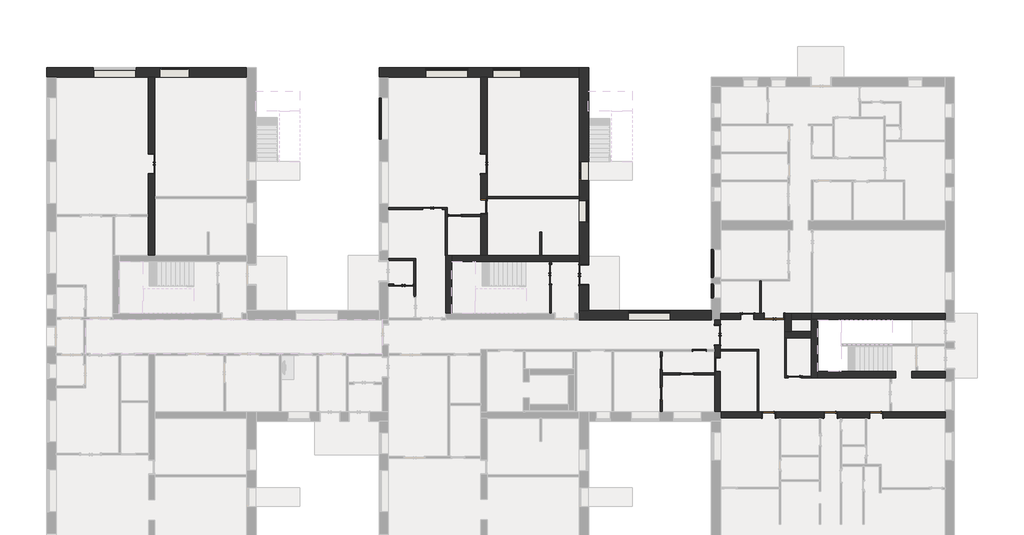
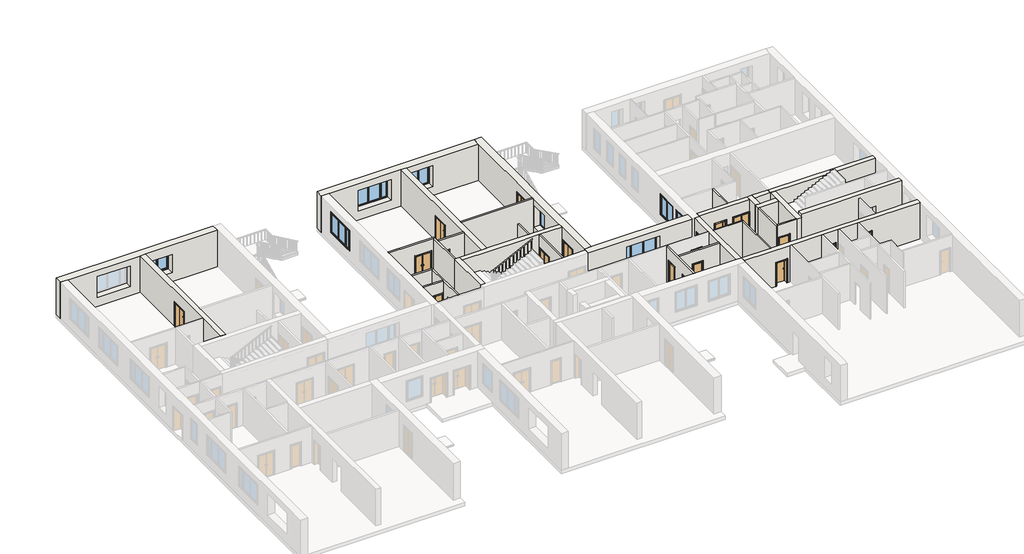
# One storey, part 4 of 10: 33 walls, 21 doors, 8 windows.
"""IFC4 building model written with IfcOpenShell, lengths in millimetres."""

from ifc_helpers import new_model, si_unit, frame, origin, origin_with_axes, place, context, project, spatial, polyline, outline, extrude, faceted_brep, transform, mapped, element, save
from components import door_ad1fb5ee, door_b74962f7, door_6cda5d05, door_6ba15531, door_47037448, door_987aae31, door_65913abd, door_dd7598a4, door_77306523, door_972d3b8f, door_8e506e8c, door_438def48, door_428ffb38, window_17d24cb2, window_91fb4078, window_825c4489, window_d8f3b313, window_e44eff39, window_74172d11, window_310a172f

model = new_model("IFC4")

# Units and contexts
model_context = context("Model", 3, world=origin())
ifc_project = project(units=[si_unit("LENGTHUNIT", "METRE", prefix="MILLI")], contexts=[model_context])

# Site, building, storey
site = spatial("IfcSite", under=ifc_project)
building = spatial("IfcBuilding", under=site)
storey = spatial("IfcBuildingStorey", under=building, Name="1 этаж", Elevation=0.0)

# Doors
placement = place(None, origin())
door_shape = door_ad1fb5ee(model_context)
element("IfcDoor", 1, ObjectType="Внутренняя дверь 1-Навесная - 30970-2002 : ДПВ Г Б Л 2100-870 ГОСТ 30970-2002", at=placement, inside=storey, context=model_context, shape_type="MappedRepresentation", body=[
    mapped(door_shape, transform((-11869.8240021, 12993.1370105, 0.0), x_axis=(1.0, 0.0, 0.0), y_axis=(0.0, 1.0, 0.0), z_axis=(0.0, 0.0, 1.0))),
])
door_2_shape = door_b74962f7(model_context)
element("IfcDoor", 2, ObjectType="Внутренняя дверь 1-Навесная - 30970-2002 : ДПВ Г Б Пр 2100-870 ГОСТ 30970-2002", at=placement, inside=storey, context=model_context, shape_type="MappedRepresentation", body=[
    mapped(door_2_shape, transform((-9991.3240021, 13594.6370105, 0.0), x_axis=(0.0, -1.0, 0.0), y_axis=(1.0, 0.0, 0.0), z_axis=(0.0, 0.0, 1.0))),
])
door_3_shape = door_6cda5d05(model_context)
element("IfcDoor", 3, ObjectType="Наружная дверь 2-Навесная - Один проем наружу с порогом - 31173-2003 : ДСН ДКН М2 2100-1300 ГОСТ 31173-2003", at=placement, inside=storey, context=model_context, shape_type="MappedRepresentation", body=[
    mapped(door_3_shape, transform((-13329.8240021, 13472.1370105, 0.0), x_axis=(-1.0, 0.0, 0.0), y_axis=(0.0, -1.0, 0.0), z_axis=(0.0, 0.0, 1.0))),
])
element("IfcDoor", 4, ObjectType="Наружная дверь 2-Навесная - Один проем наружу с порогом - 31173-2003 : ДСН ДКН М2 2100-1300 ГОСТ 31173-2003", at=placement, inside=storey, context=model_context, shape_type="MappedRepresentation", body=[
    mapped(door_3_shape, transform((-15224.8240021, 8487.1370105, 0.0), x_axis=(1.0, 0.0, 0.0), y_axis=(0.0, 1.0, 0.0), z_axis=(0.0, 0.0, 1.0))),
])
door_4_shape = door_6ba15531(model_context)
element("IfcDoor", 5, ObjectType="Наружная дверь 2-Навесная - Один проем наружу с порогом - 31173-2003 : ДСН ДКН М2 2100-1300 ГОСТ 31173-2003", at=placement, inside=storey, context=model_context, shape_type="MappedRepresentation", body=[
    mapped(door_4_shape, transform((8927.7323649, 6444.6370105, 0.0), x_axis=(1.0, 0.0, 0.0), y_axis=(0.0, 1.0, 0.0), z_axis=(0.0, 0.0, 1.0))),
])
element("IfcDoor", 6, ObjectType="Наружная дверь 2-Навесная - Один проем наружу с порогом - 31173-2003 : ДСН ДКН М2 2100-1300 ГОСТ 31173-2003", at=placement, inside=storey, context=model_context, shape_type="MappedRepresentation", body=[
    mapped(door_3_shape, transform((-5639.8240021, 9204.6370105, 0.0), x_axis=(0.0, -1.0, 0.0), y_axis=(1.0, 0.0, 0.0), z_axis=(0.0, 0.0, 1.0))),
])
door_5_shape = door_47037448(model_context)
element("IfcDoor", 7, ObjectType="Наружная дверь 2-Навесная - Один проем наружу с порогом - 31173-2003 : ДСН ДКН М2 2100-1300 ГОСТ 31173-2003", at=placement, inside=storey, context=model_context, shape_type="MappedRepresentation", body=[
    mapped(door_5_shape, transform((-3467.3240021, 9144.6370105, 0.0), x_axis=(0.0, -1.0, 0.0), y_axis=(1.0, 0.0, 0.0), z_axis=(0.0, 0.0, 1.0))),
])
element("IfcDoor", 8, ObjectType="Внутренняя дверь 1-Навесная - 30970-2002 : ДПВ Г Б Пр 2100-870 ГОСТ 30970-2002", at=placement, inside=storey, context=model_context, shape_type="MappedRepresentation", body=[
    mapped(door_shape, transform((4057.6759979, 4223.1370105, 0.0), x_axis=(1.0, 0.0, 0.0), y_axis=(0.0, 1.0, 0.0), z_axis=(0.0, 0.0, 1.0))),
])
element("IfcDoor", 9, ObjectType="Внутренняя дверь 1-Навесная - 30970-2002 : ДПВ Г Б Пр 2100-870 ГОСТ 30970-2002", at=placement, inside=storey, context=model_context, shape_type="MappedRepresentation", body=[
    mapped(door_shape, transform((3242.6759979, 2670.6370105, 0.0), x_axis=(1.0, 0.0, 0.0), y_axis=(0.0, 1.0, 0.0), z_axis=(0.0, 0.0, 1.0))),
])
element("IfcDoor", 10, ObjectType="Внутренняя дверь 1-Навесная - 30970-2002 : ДПВ Г Б Л 2100-870 ГОСТ 30970-2002", at=placement, inside=storey, context=model_context, shape_type="MappedRepresentation", body=[
    mapped(door_shape, transform((1591.6759979, 3399.6370105, 0.0), x_axis=(0.0, 1.0, 0.0), y_axis=(-1.0, 0.0, 0.0), z_axis=(0.0, 0.0, 1.0))),
])
element("IfcDoor", 11, ObjectType="Внутренняя дверь 1-Навесная - 30970-2002 : ДПВ Г Б Л 2100-870 ГОСТ 30970-2002", at=placement, inside=storey, context=model_context, shape_type="MappedRepresentation", body=[
    mapped(door_shape, transform((1591.6759979, 1419.6370105, 0.0), x_axis=(0.0, 1.0, 0.0), y_axis=(-1.0, 0.0, 0.0), z_axis=(0.0, 0.0, 1.0))),
])
door_6_shape = door_987aae31(model_context)
element("IfcDoor", 12, ObjectType="Внутренняя дверь 1-Навесная - 30970-2002 : ДПВ Г Б Пр 2100-870 ГОСТ 30970-2002", at=placement, inside=storey, context=model_context, shape_type="MappedRepresentation", body=[
    mapped(door_6_shape, transform((5246.6759979, 3299.6370105, 0.0), x_axis=(0.0, 1.0, 0.0), y_axis=(-1.0, 0.0, 0.0), z_axis=(0.0, 0.0, 1.0))),
])
door_7_shape = door_65913abd(model_context)
element("IfcDoor", 13, ObjectType="Наружная дверь 2-Навесная - Один проем наружу с порогом - 31173-2003 : ДСН ДКН М2 2100-1300 ГОСТ 31173-2003", at=placement, inside=storey, context=model_context, shape_type="MappedRepresentation", body=[
    mapped(door_7_shape, transform((5237.6759979, 5232.1370105, 0.0), x_axis=(0.0, 1.0, 0.0), y_axis=(-1.0, 0.0, 0.0), z_axis=(0.0, 0.0, 1.0))),
])
door_8_shape = door_dd7598a4(model_context)
element("IfcDoor", 14, ObjectType="Наружная дверь 2-Навесная - Один проем наружу с порогом - 31173-2003 : ДСН ДКН М2 2100-1300 ГОСТ 31173-2003", at=placement, inside=storey, context=model_context, shape_type="MappedRepresentation", body=[
    mapped(door_8_shape, transform((-9982.3240021, 16387.1370105, 0.0), x_axis=(0.0, 1.0, 0.0), y_axis=(-1.0, 0.0, 0.0), z_axis=(0.0, 0.0, 1.0))),
])
element("IfcDoor", 15, ObjectType="Наружная дверь 2-Навесная - Один проем наружу с порогом - 31173-2003 : ДСН ДКН М2 2100-1300 ГОСТ 31173-2003", at=placement, inside=storey, context=model_context, shape_type="MappedRepresentation", body=[
    mapped(door_8_shape, transform((-31622.3240021, 16387.1370105, 0.0), x_axis=(0.0, 1.0, 0.0), y_axis=(-1.0, 0.0, 0.0), z_axis=(0.0, 0.0, 1.0))),
])
door_9_shape = door_77306523(model_context)
element("IfcDoor", 16, ObjectType="Внутренняя дверь 1-Навесная - 6629-88 : ДГ 21-9  ГОСТ 6629-88", at=placement, inside=storey, context=model_context, shape_type="MappedRepresentation", body=[
    mapped(door_9_shape, transform((12602.6759979, 14.6370105, 0.0), x_axis=(-1.0, 0.0, 0.0), y_axis=(0.0, -1.0, 0.0), z_axis=(0.0, 0.0, 1.0))),
])
door_10_shape = door_972d3b8f(model_context)
element("IfcDoor", 17, ObjectType="Внутренняя дверь 1-Навесная - 6629-88 : ДГ 21-9Л  ГОСТ 6629-88", at=placement, inside=storey, context=model_context, shape_type="MappedRepresentation", body=[
    mapped(door_10_shape, transform((15567.6759979, 14.6370105, 0.0), x_axis=(1.0, 0.0, 0.0), y_axis=(0.0, 1.0, 0.0), z_axis=(0.0, 0.0, 1.0))),
])
element("IfcDoor", 18, ObjectType="Внутренняя дверь 1-Навесная - 6629-88 : ДГ 21-9Л  ГОСТ 6629-88", at=placement, inside=storey, context=model_context, shape_type="MappedRepresentation", body=[
    mapped(door_10_shape, transform((8572.6759979, 14.6370105, 0.0), x_axis=(1.0, 0.0, 0.0), y_axis=(0.0, 1.0, 0.0), z_axis=(0.0, 0.0, 1.0))),
])
door_11_shape = door_8e506e8c(model_context)
element("IfcDoor", 19, ObjectType="Внутренняя дверь 1-Навесная - 6629-88 : ДГ 21-9Л  ГОСТ 6629-88", at=placement, inside=storey, context=model_context, shape_type="MappedRepresentation", body=[
    mapped(door_11_shape, transform((10277.6759979, 2494.6370105, 0.0), x_axis=(1.0, 0.0, 0.0), y_axis=(0.0, 1.0, 0.0), z_axis=(0.0, 0.0, 1.0))),
])
door_12_shape = door_438def48(model_context)
element("IfcDoor", 20, ObjectType="Внутренняя дверь 1-Навесная - 6629-88 : ДГ 21-9Л  ГОСТ 6629-88", at=placement, inside=storey, context=model_context, shape_type="MappedRepresentation", body=[
    mapped(door_12_shape, transform((7187.7887319, 6444.6370105, 0.0), x_axis=(-1.0, 0.0, 0.0), y_axis=(0.0, -1.0, 0.0), z_axis=(0.0, 0.0, 1.0))),
])
door_13_shape = door_428ffb38(model_context)
element("IfcDoor", 21, ObjectType="Балконная дверь 2-Распашная - Сдвоенные переплеты с остеклением - 11214-2003 : БД СП Д1 2175-1174-94 ГОСТ 11214-2003", at=placement, inside=storey, context=model_context, shape_type="MappedRepresentation", body=[
    mapped(door_13_shape, transform((-3467.3240021, 15927.1370105, 0.0), x_axis=(0.0, 1.0, 0.0), y_axis=(-1.0, 0.0, 0.0), z_axis=(0.0, 0.0, 1.0))),
])

# Walls
element("IfcWall", 22, ObjectType="ADSK_Внутренняя_Кирпич_610", at=placement, inside=storey, context=model_context, shape_type="Brep", body=[
    faceted_brep([(-25412.3240021, 22644.6370105, 0.0), (-38442.3240021, 22644.6370105, 0.0), (-38442.3240021, 22644.6370105, 3200.0), (-25412.3240021, 22644.6370105, 3200.0), (-31077.3240021, 22644.6370105, 800.0), (-29177.3240021, 22644.6370105, 800.0), (-29177.3240021, 22644.6370105, 2400.0), (-31077.3240021, 22644.6370105, 2400.0), (-32657.3240021, 22644.6370105, 800.0), (-32657.3240021, 22644.6370105, 2620.0), (-35387.3240021, 22644.6370105, 2620.0), (-35387.3240021, 22644.6370105, 800.0), (-25412.3240021, 22034.6370105, 0.0), (-25412.3240021, 22034.6370105, 3200.0), (-31412.3240021, 22034.6370105, 3200.0), (-31832.3240021, 22034.6370105, 3200.0), (-37832.3240021, 22034.6370105, 3200.0), (-38442.3240021, 22034.6370105, 3200.0), (-38442.3240021, 22034.6370105, 0.0), (-37832.3240021, 22034.6370105, 0.0), (-31832.3240021, 22034.6370105, 0.0), (-31412.3240021, 22034.6370105, 0.0), (-31077.3240021, 22034.6370105, 800.0), (-31077.3240021, 22034.6370105, 2400.0), (-29177.3240021, 22034.6370105, 2400.0), (-29177.3240021, 22034.6370105, 800.0), (-32657.3240021, 22034.6370105, 800.0), (-35387.3240021, 22034.6370105, 800.0), (-35387.3240021, 22034.6370105, 2620.0), (-32657.3240021, 22034.6370105, 2620.0)], [[[0, 1, 2, 3], [4, 5, 6, 7], [8, 9, 10, 11]], [[12, 13, 14, 15, 16, 17, 18, 19, 20, 21], [22, 23, 24, 25], [26, 27, 28, 29]], [[1, 0, 12, 21, 20, 19, 18]], [[0, 3, 13, 12]], [[23, 22, 4, 7]], [[24, 23, 7, 6]], [[25, 24, 6, 5]], [[22, 25, 5, 4]], [[2, 1, 18, 17]], [[9, 8, 26, 29]], [[10, 9, 29, 28]], [[11, 10, 28, 27]], [[8, 11, 27, 26]], [[3, 2, 17, 16, 15, 14, 13]]]),
])
element("IfcWall", 23, ObjectType="ADSK_Внутренняя_Кирпич_610", at=placement, inside=storey, context=model_context, shape_type="Brep", body=[
    faceted_brep([(4837.6759979, 6834.6370105, 0.0), (-3162.3240021, 6834.6370105, 0.0), (-3772.3240021, 6834.6370105, 0.0), (-3772.3240021, 6834.6370105, 3200.0), (-3162.3240021, 6834.6370105, 3200.0), (4837.6759979, 6834.6370105, 3200.0), (-572.3240021, 6834.6370105, 800.0), (2157.6759979, 6834.6370105, 800.0), (2157.6759979, 6834.6370105, 2620.0), (-572.3240021, 6834.6370105, 2620.0), (4837.6759979, 6224.6370105, 0.0), (4837.6759979, 6224.6370105, 3200.0), (-3772.3240021, 6224.6370105, 3200.0), (-3772.3240021, 6224.6370105, 0.0), (-572.3240021, 6224.6370105, 800.0), (-572.3240021, 6224.6370105, 2620.0), (2157.6759979, 6224.6370105, 2620.0), (2157.6759979, 6224.6370105, 800.0), (-3772.3240021, 6244.6370105, 0.0), (-3772.3240021, 6644.6370105, 0.0), (-3772.3240021, 6244.6370105, 3200.0), (-3772.3240021, 6644.6370105, 3200.0)], [[[0, 1, 2, 3, 4, 5], [6, 7, 8, 9]], [[10, 11, 12, 13], [14, 15, 16, 17]], [[2, 1, 0, 10, 13, 18, 19]], [[0, 5, 11, 10]], [[3, 2, 19, 18, 13, 12, 20, 21]], [[15, 14, 6, 9]], [[16, 15, 9, 8]], [[17, 16, 8, 7]], [[14, 17, 7, 6]], [[5, 4, 3, 21, 20, 12, 11]]]),
])
element("IfcWall", 24, ObjectType="ADSK_Внутренняя_Кирпич_610", at=placement, inside=storey, context=model_context, shape_type="Brep", body=[
    faceted_brep([(-3162.3240021, 6834.6370105, 3200.0), (-3162.3240021, 6834.6370105, 0.0), (-3162.3240021, 8474.6370105, 0.0), (-3162.3240021, 8474.6370105, 2120.0), (-3162.3240021, 9814.6370105, 2120.0), (-3162.3240021, 9814.6370105, 0.0), (-3162.3240021, 22644.6370105, 0.0), (-3162.3240021, 22644.6370105, 3200.0), (-3162.3240021, 16519.4362632, 3200.0), (-3162.3240021, 15097.1370105, 3200.0), (-3162.3240021, 13977.1370105, 800.0), (-3162.3240021, 12597.1370105, 800.0), (-3162.3240021, 12597.1370105, 2620.0), (-3162.3240021, 13977.1370105, 2620.0), (-3162.3240021, 15310.1370105, 100.0), (-3162.3240021, 15310.1370105, 2335.0), (-3162.3240021, 16544.1370105, 2335.0), (-3162.3240021, 16544.1370105, 100.0), (-3772.3240021, 6834.6370105, 3200.0), (-3772.3240021, 10004.6370105, 3200.0), (-3772.3240021, 10404.6370105, 3200.0), (-3772.3240021, 14114.6370105, 3200.0), (-3772.3240021, 14259.6370105, 3200.0), (-3772.3240021, 22034.6370105, 3200.0), (-3772.3240021, 22644.6370105, 3200.0), (-3772.3240021, 22644.6370105, 0.0), (-3772.3240021, 22034.6370105, 0.0), (-3772.3240021, 14259.6370105, 0.0), (-3772.3240021, 14114.6370105, 0.0), (-3772.3240021, 10404.6370105, 0.0), (-3772.3240021, 10004.6370105, 0.0), (-3772.3240021, 9814.6370105, 0.0), (-3772.3240021, 9814.6370105, 2120.0), (-3772.3240021, 8474.6370105, 2120.0), (-3772.3240021, 8474.6370105, 0.0), (-3772.3240021, 6834.6370105, 0.0), (-3772.3240021, 13977.1370105, 800.0), (-3772.3240021, 13977.1370105, 2620.0), (-3772.3240021, 12597.1370105, 2620.0), (-3772.3240021, 12597.1370105, 800.0), (-3772.3240021, 15310.1370105, 100.0), (-3772.3240021, 16544.1370105, 100.0), (-3772.3240021, 16544.1370105, 2335.0), (-3772.3240021, 15310.1370105, 2335.0)], [[[0, 1, 2, 3, 4, 5, 6, 7, 8, 9], [10, 11, 12, 13], [14, 15, 16, 17]], [[18, 19, 20, 21, 22, 23, 24, 25, 26, 27, 28, 29, 30, 31, 32, 33, 34, 35], [36, 37, 38, 39], [40, 41, 42, 43]], [[1, 35, 34, 2]], [[25, 6, 5, 31, 30, 29, 28, 27, 26]], [[1, 0, 18, 35]], [[7, 6, 25, 24]], [[33, 3, 2, 34]], [[3, 33, 32, 4]], [[4, 32, 31, 5]], [[37, 36, 10, 13]], [[38, 37, 13, 12]], [[39, 38, 12, 11]], [[36, 39, 11, 10]], [[15, 14, 40, 43]], [[16, 15, 43, 42]], [[17, 16, 42, 41]], [[14, 17, 41, 40]], [[24, 23, 22, 21, 20, 19, 18, 0, 9, 8, 7]]]),
])
element("IfcWall", 25, ObjectType="ADSK_Внутренняя_Кирпич_610", at=placement, inside=storey, context=model_context, shape_type="Brep", body=[
    faceted_brep([(-3772.3240021, 22644.6370105, 0.0), (-16802.3240021, 22644.6370105, 0.0), (-16802.3240021, 22644.6370105, 3200.0), (-3772.3240021, 22644.6370105, 3200.0), (-11017.3240021, 22644.6370105, 800.0), (-11017.3240021, 22644.6370105, 2620.0), (-13747.3240021, 22644.6370105, 2620.0), (-13747.3240021, 22644.6370105, 800.0), (-9397.3240021, 22644.6370105, 800.0), (-7567.3240021, 22644.6370105, 800.0), (-7567.3240021, 22644.6370105, 2620.0), (-9397.3240021, 22644.6370105, 2620.0), (-3772.3240021, 22034.6370105, 0.0), (-3772.3240021, 22034.6370105, 3200.0), (-9772.3240021, 22034.6370105, 3200.0), (-10192.3240021, 22034.6370105, 3200.0), (-16192.3240021, 22034.6370105, 3200.0), (-16802.3240021, 22034.6370105, 3200.0), (-16802.3240021, 22034.6370105, 0.0), (-16192.3240021, 22034.6370105, 0.0), (-10192.3240021, 22034.6370105, 0.0), (-9772.3240021, 22034.6370105, 0.0), (-11017.3240021, 22034.6370105, 800.0), (-13747.3240021, 22034.6370105, 800.0), (-13747.3240021, 22034.6370105, 2620.0), (-11017.3240021, 22034.6370105, 2620.0), (-9397.3240021, 22034.6370105, 800.0), (-9397.3240021, 22034.6370105, 2620.0), (-7567.3240021, 22034.6370105, 2620.0), (-7567.3240021, 22034.6370105, 800.0)], [[[0, 1, 2, 3], [4, 5, 6, 7], [8, 9, 10, 11]], [[12, 13, 14, 15, 16, 17, 18, 19, 20, 21], [22, 23, 24, 25], [26, 27, 28, 29]], [[1, 0, 12, 21, 20, 19, 18]], [[0, 3, 13, 12]], [[2, 1, 18, 17]], [[5, 4, 22, 25]], [[6, 5, 25, 24]], [[7, 6, 24, 23]], [[4, 7, 23, 22]], [[27, 26, 8, 11]], [[28, 27, 11, 10]], [[29, 28, 10, 9]], [[26, 29, 9, 8]], [[3, 2, 17, 16, 15, 14, 13]]]),
])
element("IfcWall", 26, ObjectType="ADSK_Внутренняя_Кирпич_380+20х2", at=placement, inside=storey, context=model_context, shape_type="Brep", body=[
    faceted_brep([(-31412.3240021, 22034.6370105, 0.0), (-31412.3240021, 22034.6370105, 3200.0), (-31412.3240021, 14259.6370105, 3200.0), (-31412.3240021, 14114.6370105, 3200.0), (-31412.3240021, 10424.6370105, 3200.0), (-31412.3240021, 10424.6370105, 0.0), (-31412.3240021, 14114.6370105, 0.0), (-31412.3240021, 14259.6370105, 0.0), (-31412.3240021, 15717.1370105, 0.0), (-31412.3240021, 15717.1370105, 2120.0), (-31412.3240021, 17057.1370105, 2120.0), (-31412.3240021, 17057.1370105, 0.0), (-31832.3240021, 22034.6370105, 3200.0), (-31832.3240021, 22034.6370105, 0.0), (-31832.3240021, 17057.1370105, 0.0), (-31832.3240021, 17057.1370105, 2120.0), (-31832.3240021, 15717.1370105, 2120.0), (-31832.3240021, 15717.1370105, 0.0), (-31832.3240021, 13069.6370105, 0.0), (-31832.3240021, 12944.6370105, 0.0), (-31832.3240021, 10424.6370105, 0.0), (-31832.3240021, 10424.6370105, 3200.0), (-31832.3240021, 12944.6370105, 3200.0), (-31832.3240021, 13069.6370105, 3200.0)], [[[0, 1, 2, 3, 4, 5, 6, 7, 8, 9, 10, 11]], [[12, 13, 14, 15, 16, 17, 18, 19, 20, 21, 22, 23]], [[5, 20, 19, 18, 17, 8, 7, 6]], [[13, 0, 11, 14]], [[1, 0, 13, 12]], [[5, 4, 21, 20]], [[10, 15, 14, 11]], [[15, 10, 9, 16]], [[16, 9, 8, 17]], [[4, 3, 2, 1, 12, 23, 22, 21]]]),
])
element("IfcWall", 27, ObjectType="ADSK_Внутренняя_Кирпич_380+20", at=placement, inside=storey, context=model_context, shape_type="Brep", body=[
    faceted_brep([(-12072.3240021, 6644.6370105, 0.0), (-12072.3240021, 10004.6370105, 0.0), (-12072.3240021, 10404.6370105, 0.0), (-12072.3240021, 10404.6370105, 3200.0), (-12072.3240021, 10004.6370105, 3200.0), (-12072.3240021, 6644.6370105, 3200.0), (-12472.3240021, 6644.6370105, 0.0), (-12472.3240021, 6644.6370105, 3200.0), (-12472.3240021, 10404.6370105, 3200.0), (-12472.3240021, 10404.6370105, 0.0), (-12367.3240021, 10404.6370105, 0.0), (-12367.3240021, 10404.6370105, 3200.0)], [[[0, 1, 2, 3, 4, 5]], [[6, 7, 8, 9]], [[2, 1, 0, 6, 9, 10]], [[0, 5, 7, 6]], [[3, 2, 10, 9, 8, 11]], [[5, 4, 3, 11, 8, 7]]]),
])
element("IfcWall", 28, ObjectType="ADSK_Внутренняя_Кирпич_380+20", at=placement, inside=storey, context=model_context, shape_type="Brep", body=[
    faceted_brep([(-12072.3240021, 10004.6370105, 0.0), (-5702.3240021, 10004.6370105, 0.0), (-5577.3240021, 10004.6370105, 0.0), (-3772.3240021, 10004.6370105, 0.0), (-3772.3240021, 10004.6370105, 3200.0), (-5577.3240021, 10004.6370105, 3200.0), (-5702.3240021, 10004.6370105, 3200.0), (-7241.6291278, 10004.6370105, 3200.0), (-12072.3240021, 10004.6370105, 3200.0), (-12072.3240021, 10404.6370105, 0.0), (-12072.3240021, 10404.6370105, 3200.0), (-10192.3240021, 10404.6370105, 3200.0), (-9772.3240021, 10404.6370105, 3200.0), (-6344.7740021, 10404.6370105, 3200.0), (-6219.7740021, 10404.6370105, 3200.0), (-3772.3240021, 10404.6370105, 3200.0), (-3772.3240021, 10404.6370105, 0.0), (-6219.7740021, 10404.6370105, 0.0), (-6344.7740021, 10404.6370105, 0.0), (-9772.3240021, 10404.6370105, 0.0), (-10192.3240021, 10404.6370105, 0.0)], [[[0, 1, 2, 3, 4, 5, 6, 7, 8]], [[9, 10, 11, 12, 13, 14, 15, 16, 17, 18, 19, 20]], [[3, 2, 1, 0, 9, 20, 19, 18, 17, 16]], [[0, 8, 10, 9]], [[4, 3, 16, 15]], [[8, 7, 6, 5, 4, 15, 14, 13, 12, 11, 10]]]),
])
element("IfcWall", 29, ObjectType="ADSK_Внутренняя_Кирпич_380+20х2", at=placement, inside=storey, context=model_context, shape_type="Brep", body=[
    faceted_brep([(-9772.3240021, 22034.6370105, 0.0), (-9772.3240021, 22034.6370105, 3200.0), (-9772.3240021, 14259.6370105, 3200.0), (-9772.3240021, 14114.6370105, 3200.0), (-9772.3240021, 10404.6370105, 3200.0), (-9772.3240021, 10404.6370105, 0.0), (-9772.3240021, 13109.6370105, 0.0), (-9772.3240021, 13109.6370105, 2150.0), (-9772.3240021, 14079.6370105, 2150.0), (-9772.3240021, 14079.6370105, 0.0), (-9772.3240021, 14114.6370105, 0.0), (-9772.3240021, 14259.6370105, 0.0), (-9772.3240021, 15717.1370105, 0.0), (-9772.3240021, 15717.1370105, 2120.0), (-9772.3240021, 17057.1370105, 2120.0), (-9772.3240021, 17057.1370105, 0.0), (-10192.3240021, 22034.6370105, 3200.0), (-10192.3240021, 22034.6370105, 0.0), (-10192.3240021, 17057.1370105, 0.0), (-10192.3240021, 17057.1370105, 2120.0), (-10192.3240021, 15717.1370105, 2120.0), (-10192.3240021, 15717.1370105, 0.0), (-10192.3240021, 14079.6370105, 0.0), (-10192.3240021, 14079.6370105, 2150.0), (-10192.3240021, 13109.6370105, 2150.0), (-10192.3240021, 13109.6370105, 0.0), (-10192.3240021, 13064.6370105, 0.0), (-10192.3240021, 12939.6370105, 0.0), (-10192.3240021, 10404.6370105, 0.0), (-10192.3240021, 10404.6370105, 3200.0), (-10192.3240021, 12939.6370105, 3200.0), (-10192.3240021, 13064.6370105, 3200.0)], [[[0, 1, 2, 3, 4, 5, 6, 7, 8, 9, 10, 11, 12, 13, 14, 15]], [[16, 17, 18, 19, 20, 21, 22, 23, 24, 25, 26, 27, 28, 29, 30, 31]], [[5, 28, 27, 26, 25, 6]], [[17, 0, 15, 18]], [[9, 22, 21, 12, 11, 10]], [[1, 0, 17, 16]], [[5, 4, 29, 28]], [[24, 7, 6, 25]], [[7, 24, 23, 8]], [[8, 23, 22, 9]], [[14, 19, 18, 15]], [[19, 14, 13, 20]], [[20, 13, 12, 21]], [[4, 3, 2, 1, 16, 31, 30, 29]]]),
])
element("IfcWall", 30, ObjectType="ADSK_Внутренняя_Кирпич_380", at=placement, inside=storey, context=model_context, shape_type="Brep", body=[
    faceted_brep([(20057.6759979, 6624.6370105, 0.0), (11447.6759979, 6624.6370105, 0.0), (11347.6759979, 6624.6370105, 0.0), (11337.6759979, 6624.6370105, 0.0), (11337.6759979, 6624.6370105, 3200.0), (11347.6759979, 6624.6370105, 3200.0), (11447.6759979, 6624.6370105, 3200.0), (20057.6759979, 6624.6370105, 3200.0), (20057.6759979, 6244.6370105, 0.0), (20057.6759979, 6244.6370105, 3200.0), (16582.6759979, 6244.6370105, 3200.0), (11757.6759979, 6244.6370105, 3200.0), (11737.6759979, 6244.6370105, 3200.0), (11337.6759979, 6244.6370105, 3200.0), (11337.6759979, 6244.6370105, 0.0), (11757.6759979, 6244.6370105, 0.0)], [[[0, 1, 2, 3, 4, 5, 6, 7]], [[8, 9, 10, 11, 12, 13, 14, 15]], [[3, 2, 1, 0, 8, 15, 14]], [[0, 7, 9, 8]], [[4, 3, 14, 13]], [[7, 6, 5, 4, 13, 12, 11, 10, 9]]]),
])
element("IfcWall", 31, ObjectType="ADSK_Внутренняя_Кирпич_380+20х2", at=placement, inside=storey, context=model_context, shape_type="Brep", body=[
    faceted_brep([(11337.6759979, 6244.6370105, 0.0), (11337.6759979, 5444.6370105, 0.0), (11337.6759979, 5044.6370105, 0.0), (11337.6759979, 2544.6370105, 0.0), (11337.6759979, 2444.6370105, 0.0), (11337.6759979, 2444.6370105, 3200.0), (11337.6759979, 2544.6370105, 3200.0), (11337.6759979, 5044.6370105, 3200.0), (11337.6759979, 5444.6370105, 3200.0), (11337.6759979, 6244.6370105, 3200.0), (11757.6759979, 6244.6370105, 0.0), (11757.6759979, 6244.6370105, 3200.0), (11757.6759979, 2444.6370105, 3200.0), (11757.6759979, 2444.6370105, 0.0), (11757.6759979, 2864.6370105, 0.0), (11737.6759979, 6244.6370105, 3200.0), (11737.6759979, 2444.6370105, 3200.0), (11737.6759979, 2848.1849883, 3200.0)], [[[0, 1, 2, 3, 4, 5, 6, 7, 8, 9]], [[10, 11, 12, 13, 14]], [[4, 3, 2, 1, 0, 10, 14, 13]], [[0, 9, 15, 11, 10]], [[5, 4, 13, 12, 16]], [[9, 8, 7, 6, 5, 16, 17, 15]], [[16, 12, 11, 15, 17]]]),
])
element("IfcWall", 32, ObjectType="ADSK_Внутренняя_Кирпич_380+20х2", at=placement, inside=storey, context=model_context, shape_type="Brep", body=[
    faceted_brep([(17872.6759979, 2444.6370105, 2070.0), (17872.6759979, 2444.6370105, 0.0), (20057.6759979, 2444.6370105, 0.0), (20057.6759979, 2444.6370105, 3500.0), (11757.6759979, 2444.6370105, 3500.0), (11757.6759979, 2444.6370105, 3200.0), (11757.6759979, 2444.6370105, 0.0), (16457.6759979, 2444.6370105, 0.0), (16582.6759979, 2444.6370105, 0.0), (16862.6759979, 2444.6370105, 0.0), (16862.6759979, 2444.6370105, 2070.0), (20057.6759979, 2864.6370105, 0.0), (18277.6759979, 2864.6370105, 0.0), (18152.6759979, 2864.6370105, 0.0), (17872.6759979, 2864.6370105, 0.0), (17872.6759979, 2864.6370105, 2070.0), (16862.6759979, 2864.6370105, 2070.0), (16862.6759979, 2864.6370105, 0.0), (11757.6759979, 2864.6370105, 0.0), (11757.6759979, 2864.6370105, 3500.0), (20057.6759979, 2864.6370105, 3500.0)], [[[0, 1, 2, 3, 4, 5, 6, 7, 8, 9, 10]], [[11, 12, 13, 14, 15, 16, 17, 18, 19, 20]], [[2, 1, 14, 13, 12, 11]], [[9, 8, 7, 6, 18, 17]], [[4, 3, 20, 19]], [[6, 5, 4, 19, 18]], [[3, 2, 11, 20]], [[17, 16, 10, 9]], [[15, 14, 1, 0]], [[16, 15, 0, 10]]]),
])
element("IfcWall", 33, ObjectType="ADSK_Внутренняя_Кирпич_380+20", at=placement, inside=storey, context=model_context, shape_type="Brep", body=[
    faceted_brep([(11337.6759979, 5444.6370105, 0.0), (10027.6759979, 5444.6370105, 0.0), (9627.6759979, 5444.6370105, 0.0), (9627.6759979, 5444.6370105, 3200.0), (10027.6759979, 5444.6370105, 3200.0), (11337.6759979, 5444.6370105, 3200.0), (11337.6759979, 5044.6370105, 0.0), (11337.6759979, 5044.6370105, 3200.0), (9727.6759979, 5044.6370105, 3200.0), (9627.6759979, 5044.6370105, 3200.0), (9627.6759979, 5044.6370105, 0.0), (9727.6759979, 5044.6370105, 0.0)], [[[0, 1, 2, 3, 4, 5]], [[6, 7, 8, 9, 10, 11]], [[2, 1, 0, 6, 11, 10]], [[0, 5, 7, 6]], [[3, 2, 10, 9]], [[5, 4, 3, 9, 8, 7]]]),
])
element("IfcWall", 34, ObjectType="ADSK_Внутренняя_Кирпич_380+20", at=placement, inside=storey, context=model_context, shape_type="Brep", body=[
    faceted_brep([(10027.6759979, 5444.6370105, 0.0), (10027.6759979, 6244.6370105, 0.0), (10027.6759979, 6644.6370105, 0.0), (10027.6759979, 6644.6370105, 3200.0), (10027.6759979, 6244.6370105, 3200.0), (10027.6759979, 5444.6370105, 3200.0), (9627.6759979, 5444.6370105, 0.0), (9627.6759979, 5444.6370105, 3200.0), (9627.6759979, 6244.6370105, 3200.0), (9627.6759979, 6644.6370105, 3200.0), (9627.6759979, 6644.6370105, 0.0), (9627.6759979, 6244.6370105, 0.0)], [[[0, 1, 2, 3, 4, 5]], [[6, 7, 8, 9, 10, 11]], [[2, 1, 0, 6, 11, 10]], [[0, 5, 7, 6]], [[3, 2, 10, 9]], [[5, 4, 3, 9, 8, 7]]]),
])
element("IfcWall", 35, ObjectType="ADSK_Внутренняя_Кирпич_380+20", at=placement, inside=storey, context=model_context, shape_type="Brep", body=[
    faceted_brep([(10027.6759979, 6244.6370105, 0.0), (11337.6759979, 6244.6370105, 0.0), (11337.6759979, 6244.6370105, 3200.0), (10027.6759979, 6244.6370105, 3200.0), (10027.6759979, 6644.6370105, 0.0), (10027.6759979, 6644.6370105, 3200.0), (11337.6759979, 6644.6370105, 3200.0), (11337.6759979, 6644.6370105, 0.0), (11337.6759979, 6624.6370105, 0.0), (11337.6759979, 6624.6370105, 3200.0)], [[[0, 1, 2, 3]], [[4, 5, 6, 7]], [[1, 0, 4, 7, 8]], [[0, 3, 5, 4]], [[2, 1, 8, 7, 6, 9]], [[3, 2, 9, 6, 5]]]),
])
element("IfcWall", 36, ObjectType="ADSK_Внутренняя_Кирпич_380+20", at=placement, inside=storey, context=model_context, shape_type="Brep", body=[
    faceted_brep([(5447.6759979, 6644.6370105, 0.0), (5447.6759979, 6644.6370105, 3200.0), (7977.7887319, 6644.6370105, 3200.0), (8077.7887319, 6644.6370105, 3200.0), (9627.6759979, 6644.6370105, 3200.0), (9627.6759979, 6644.6370105, 0.0), (9597.7323649, 6644.6370105, 0.0), (9597.7323649, 6644.6370105, 2120.0), (8257.7323649, 6644.6370105, 2120.0), (8257.7323649, 6644.6370105, 0.0), (8077.7887319, 6644.6370105, 0.0), (7977.7887319, 6644.6370105, 0.0), (7642.7887319, 6644.6370105, 0.0), (7642.7887319, 6644.6370105, 2070.0), (6732.7887319, 6644.6370105, 2070.0), (6732.7887319, 6644.6370105, 0.0), (5447.6759979, 6244.6370105, 3200.0), (5447.6759979, 6244.6370105, 0.0), (6732.7887319, 6244.6370105, 0.0), (6732.7887319, 6244.6370105, 2070.0), (7642.7887319, 6244.6370105, 2070.0), (7642.7887319, 6244.6370105, 0.0), (8257.7323649, 6244.6370105, 0.0), (8257.7323649, 6244.6370105, 2120.0), (9597.7323649, 6244.6370105, 2120.0), (9597.7323649, 6244.6370105, 0.0), (9627.6759979, 6244.6370105, 0.0), (9627.6759979, 6244.6370105, 3200.0)], [[[0, 1, 2, 3, 4, 5, 6, 7, 8, 9, 10, 11, 12, 13, 14, 15]], [[16, 17, 18, 19, 20, 21, 22, 23, 24, 25, 26, 27]], [[5, 26, 25, 6]], [[17, 0, 15, 18]], [[21, 12, 11, 10, 9, 22]], [[1, 0, 17, 16]], [[5, 4, 27, 26]], [[14, 19, 18, 15]], [[19, 14, 13, 20]], [[20, 13, 12, 21]], [[4, 3, 2, 1, 16, 27]], [[24, 7, 6, 25]], [[7, 24, 23, 8]], [[8, 23, 22, 9]]]),
])
element("IfcWall", 37, ObjectType="ADSK_Внутренняя_Кирпич_380", at=placement, inside=storey, context=model_context, shape_type="Brep", body=[
    faceted_brep([(5047.6759979, 224.6370105, 0.0), (5047.6759979, 224.6370105, 3200.0), (5047.6759979, 2617.1370105, 3200.0), (5047.6759979, 2742.1370105, 3200.0), (5047.6759979, 4169.6370105, 3200.0), (5047.6759979, 4294.6370105, 3200.0), (5047.6759979, 6224.6370105, 3200.0), (5047.6759979, 6224.6370105, 0.0), (5047.6759979, 5902.1370105, 0.0), (5047.6759979, 5902.1370105, 2120.0), (5047.6759979, 4562.1370105, 2120.0), (5047.6759979, 4562.1370105, 0.0), (5047.6759979, 4294.6370105, 0.0), (5047.6759979, 4169.6370105, 0.0), (5047.6759979, 3784.6370105, 0.0), (5047.6759979, 3784.6370105, 2150.0), (5047.6759979, 2814.6370105, 2150.0), (5047.6759979, 2814.6370105, 0.0), (5047.6759979, 2742.1370105, 0.0), (5047.6759979, 2617.1370105, 0.0), (5427.6759979, 224.6370105, 3200.0), (5427.6759979, 224.6370105, 0.0), (5427.6759979, 2814.6370105, 0.0), (5427.6759979, 2814.6370105, 2150.0), (5427.6759979, 3784.6370105, 2150.0), (5427.6759979, 3784.6370105, 0.0), (5427.6759979, 4189.6370105, 0.0), (5427.6759979, 4289.6370105, 0.0), (5427.6759979, 4562.1370105, 0.0), (5427.6759979, 4562.1370105, 2120.0), (5427.6759979, 5902.1370105, 2120.0), (5427.6759979, 5902.1370105, 0.0), (5427.6759979, 6224.6370105, 0.0), (5427.6759979, 6224.6370105, 3200.0), (5427.6759979, 4289.6370105, 3200.0), (5427.6759979, 4189.6370105, 3200.0)], [[[0, 1, 2, 3, 4, 5, 6, 7, 8, 9, 10, 11, 12, 13, 14, 15, 16, 17, 18, 19]], [[20, 21, 22, 23, 24, 25, 26, 27, 28, 29, 30, 31, 32, 33, 34, 35]], [[7, 32, 31, 8]], [[21, 0, 19, 18, 17, 22]], [[25, 14, 13, 12, 11, 28, 27, 26]], [[1, 0, 21, 20]], [[7, 6, 33, 32]], [[24, 15, 14, 25]], [[15, 24, 23, 16]], [[16, 23, 22, 17]], [[30, 9, 8, 31]], [[9, 30, 29, 10]], [[10, 29, 28, 11]], [[6, 5, 4, 3, 2, 1, 20, 35, 34, 33]]]),
])
element("IfcWall", 38, ObjectType="ADSK_Внутренняя_Кирпич_380", at=placement, inside=storey, context=model_context, shape_type="Brep", body=[
    faceted_brep([(5447.6759979, -175.3629895, 3200.0), (5447.6759979, -175.3629895, 0.0), (8117.6759979, -175.3629895, 0.0), (8117.6759979, -175.3629895, 2070.0), (9027.6759979, -175.3629895, 2070.0), (9027.6759979, -175.3629895, 0.0), (9272.6759979, -175.3629895, 0.0), (9372.6759979, -175.3629895, 0.0), (11867.6759979, -175.3629895, 0.0), (11967.6759979, -175.3629895, 0.0), (12147.6759979, -175.3629895, 0.0), (12147.6759979, -175.3629895, 2070.0), (13057.6759979, -175.3629895, 2070.0), (13057.6759979, -175.3629895, 0.0), (13237.6759979, -175.3629895, 0.0), (13337.6759979, -175.3629895, 0.0), (14857.6759979, -175.3629895, 0.0), (14957.6759979, -175.3629895, 0.0), (15112.6759979, -175.3629895, 0.0), (15112.6759979, -175.3629895, 2070.0), (16022.6759979, -175.3629895, 2070.0), (16022.6759979, -175.3629895, 0.0), (20057.6759979, -175.3629895, 0.0), (20057.6759979, -175.3629895, 3200.0), (14957.6759979, -175.3629895, 3200.0), (14857.6759979, -175.3629895, 3200.0), (13337.6759979, -175.3629895, 3200.0), (13237.6759979, -175.3629895, 3200.0), (11967.6759979, -175.3629895, 3200.0), (11867.6759979, -175.3629895, 3200.0), (9372.6759979, -175.3629895, 3200.0), (9272.6759979, -175.3629895, 3200.0), (5447.6759979, 204.6370105, 0.0), (5447.6759979, 204.6370105, 3200.0), (7822.6759979, 204.6370105, 3200.0), (7922.6759979, 204.6370105, 3200.0), (16457.6759979, 204.6370105, 3200.0), (16582.6759979, 204.6370105, 3200.0), (20057.6759979, 204.6370105, 3200.0), (20057.6759979, 204.6370105, 0.0), (16582.6759979, 204.6370105, 0.0), (16457.6759979, 204.6370105, 0.0), (16022.6759979, 204.6370105, 0.0), (16022.6759979, 204.6370105, 2070.0), (15112.6759979, 204.6370105, 2070.0), (15112.6759979, 204.6370105, 0.0), (13057.6759979, 204.6370105, 0.0), (13057.6759979, 204.6370105, 2070.0), (12147.6759979, 204.6370105, 2070.0), (12147.6759979, 204.6370105, 0.0), (9027.6759979, 204.6370105, 0.0), (9027.6759979, 204.6370105, 2070.0), (8117.6759979, 204.6370105, 2070.0), (8117.6759979, 204.6370105, 0.0), (7922.6759979, 204.6370105, 0.0), (7822.6759979, 204.6370105, 0.0)], [[[0, 1, 2, 3, 4, 5, 6, 7, 8, 9, 10, 11, 12, 13, 14, 15, 16, 17, 18, 19, 20, 21, 22, 23, 24, 25, 26, 27, 28, 29, 30, 31]], [[32, 33, 34, 35, 36, 37, 38, 39, 40, 41, 42, 43, 44, 45, 46, 47, 48, 49, 50, 51, 52, 53, 54, 55]], [[1, 32, 55, 54, 53, 2]], [[39, 22, 21, 42, 41, 40]], [[45, 18, 17, 16, 15, 14, 13, 46]], [[5, 50, 49, 10, 9, 8, 7, 6]], [[1, 0, 33, 32]], [[23, 22, 39, 38]], [[20, 43, 42, 21]], [[43, 20, 19, 44]], [[44, 19, 18, 45]], [[4, 51, 50, 5]], [[51, 4, 3, 52]], [[52, 3, 2, 53]], [[0, 31, 30, 29, 28, 27, 26, 25, 24, 23, 38, 37, 36, 35, 34, 33]], [[48, 11, 10, 49]], [[11, 48, 47, 12]], [[12, 47, 46, 13]]]),
])
element("IfcWall", 39, ObjectType="ADSK_Внутренняя_Перегородка_125+10х2", at=placement, inside=storey, context=model_context, shape_type="SweptSolid", body=[
    extrude(outline(polyline([(-3772.3240021, 14114.6370105), (-9772.3240021, 14114.6370105), (-9772.3240021, 14259.6370105), (-3772.3240021, 14259.6370105), (-3772.3240021, 14114.6370105)])), origin_with_axes(), (0.0, 0.0, 1.0), 3200.0),
])
element("IfcWall", 40, ObjectType="ADSK_Внутренняя_Перегородка_75_25x2", at=placement, inside=storey, context=model_context, shape_type="Brep", body=[
    faceted_brep([(-16192.3240021, 13409.6370105, 3200.0), (-16192.3240021, 13409.6370105, 0.0), (-13999.8240021, 13409.6370105, 0.0), (-13999.8240021, 13409.6370105, 2120.0), (-12659.8240021, 13409.6370105, 2120.0), (-12659.8240021, 13409.6370105, 0.0), (-12492.3240021, 13409.6370105, 0.0), (-12367.3240021, 13409.6370105, 0.0), (-12367.3240021, 13409.6370105, 3200.0), (-12492.3240021, 13409.6370105, 3200.0), (-16192.3240021, 13534.6370105, 0.0), (-16192.3240021, 13534.6370105, 3200.0), (-12367.3240021, 13534.6370105, 3200.0), (-12367.3240021, 13534.6370105, 0.0), (-12659.8240021, 13534.6370105, 0.0), (-12659.8240021, 13534.6370105, 2120.0), (-13999.8240021, 13534.6370105, 2120.0), (-13999.8240021, 13534.6370105, 0.0)], [[[0, 1, 2, 3, 4, 5, 6, 7, 8, 9]], [[10, 11, 12, 13, 14, 15, 16, 17]], [[1, 10, 17, 2]], [[13, 7, 6, 5, 14]], [[1, 0, 11, 10]], [[8, 7, 13, 12]], [[16, 3, 2, 17]], [[3, 16, 15, 4]], [[4, 15, 14, 5]], [[0, 9, 8, 12, 11]]]),
])
element("IfcWall", 41, ObjectType="ADSK_Внутренняя_Перегородка_75_25x2", at=placement, inside=storey, context=model_context, shape_type="Brep", body=[
    faceted_brep([(-12492.3240021, 13409.6370105, 0.0), (-12492.3240021, 10404.6370105, 0.0), (-12492.3240021, 10404.6370105, 3200.0), (-12492.3240021, 13409.6370105, 3200.0), (-12367.3240021, 13409.6370105, 0.0), (-12367.3240021, 13409.6370105, 3200.0), (-12367.3240021, 13064.6370105, 3200.0), (-12367.3240021, 12939.6370105, 3200.0), (-12367.3240021, 10404.6370105, 3200.0), (-12367.3240021, 10404.6370105, 0.0), (-12367.3240021, 12939.6370105, 0.0), (-12367.3240021, 13064.6370105, 0.0), (-12472.3240021, 10404.6370105, 0.0), (-12472.3240021, 10404.6370105, 3200.0)], [[[0, 1, 2, 3]], [[4, 5, 6, 7, 8, 9, 10, 11]], [[1, 0, 4, 11, 10, 9, 12]], [[0, 3, 5, 4]], [[2, 1, 12, 9, 8, 13]], [[3, 2, 13, 8, 7, 6, 5]]]),
])
element("IfcWall", 42, ObjectType="ADSK_Внутренняя_Перегородка_75_25x2", at=placement, inside=storey, context=model_context, shape_type="SweptSolid", body=[
    extrude(outline(polyline([(0.0, -10192.3240021), (3200.0, -10192.3240021), (3200.0, -12367.3240021), (0.0, -12367.3240021), (0.0, -12354.8240021), (2150.0, -12354.8240021), (2150.0, -11384.8240021), (0.0, -11384.8240021), (0.0, -10192.3240021)])), frame((0.0, 12939.6370105, 0.0), z_axis=(0.0, 1.0, 0.0), x_axis=(0.0, 0.0, 1.0)), (0.0, 0.0, 1.0), 125.0),
])
element("IfcWall", 43, ObjectType="ADSK_Внутренняя_Перегородка_75_25x2", at=placement, inside=storey, context=model_context, shape_type="Brep", body=[
    faceted_brep([(-16192.3240021, 10099.6370105, 0.0), (-14527.3240021, 10099.6370105, 0.0), (-14402.3240021, 10099.6370105, 0.0), (-14402.3240021, 10099.6370105, 3200.0), (-14527.3240021, 10099.6370105, 3200.0), (-16192.3240021, 10099.6370105, 3200.0), (-16192.3240021, 10224.6370105, 0.0), (-16192.3240021, 10224.6370105, 3200.0), (-14402.3240021, 10224.6370105, 3200.0), (-14402.3240021, 10224.6370105, 0.0)], [[[0, 1, 2, 3, 4, 5]], [[6, 7, 8, 9]], [[2, 1, 0, 6, 9]], [[0, 5, 7, 6]], [[3, 2, 9, 8]], [[5, 4, 3, 8, 7]]]),
])
element("IfcWall", 44, ObjectType="ADSK_Внутренняя_Перегородка_75_25x2", at=placement, inside=storey, context=model_context, shape_type="Brep", body=[
    faceted_brep([(-14527.3240021, 10099.6370105, 3200.0), (-14527.3240021, 10099.6370105, 0.0), (-14527.3240021, 8549.6370105, 0.0), (-14527.3240021, 8424.6370105, 0.0), (-14527.3240021, 7717.1370105, 0.0), (-14527.3240021, 7717.1370105, 2120.0), (-14527.3240021, 6377.1370105, 2120.0), (-14527.3240021, 6377.1370105, 0.0), (-14527.3240021, 6349.6370105, 0.0), (-14527.3240021, 6349.6370105, 3200.0), (-14527.3240021, 8424.6370105, 3200.0), (-14527.3240021, 8549.6370105, 3200.0), (-14402.3240021, 10099.6370105, 0.0), (-14402.3240021, 10099.6370105, 3200.0), (-14402.3240021, 6349.6370105, 3200.0), (-14402.3240021, 6349.6370105, 0.0), (-14402.3240021, 6377.1370105, 0.0), (-14402.3240021, 6377.1370105, 2120.0), (-14402.3240021, 7717.1370105, 2120.0), (-14402.3240021, 7717.1370105, 0.0)], [[[0, 1, 2, 3, 4, 5, 6, 7, 8, 9, 10, 11]], [[12, 13, 14, 15, 16, 17, 18, 19]], [[1, 12, 19, 4, 3, 2]], [[15, 8, 7, 16]], [[1, 0, 13, 12]], [[9, 8, 15, 14]], [[18, 5, 4, 19]], [[5, 18, 17, 6]], [[6, 17, 16, 7]], [[0, 11, 10, 9, 14, 13]]]),
])
element("IfcWall", 45, ObjectType="ADSK_Внутренняя_Перегородка_75_25x2", at=placement, inside=storey, context=model_context, shape_type="SweptSolid", body=[
    extrude(outline(polyline([(3200.0, -16192.3240021), (0.0, -16192.3240021), (0.0, -15894.8240021), (2120.0, -15894.8240021), (2120.0, -14554.8240021), (0.0, -14554.8240021), (0.0, -14527.3240021), (3200.0, -14527.3240021), (3200.0, -16192.3240021)])), frame((0.0, 8424.6370105, 0.0), z_axis=(0.0, 1.0, 0.0), x_axis=(0.0, 0.0, 1.0)), (0.0, 0.0, 1.0), 125.0),
])
element("IfcWall", 46, ObjectType="ADSK_Внутренняя_Перегородка_75_25x2", at=placement, inside=storey, context=model_context, shape_type="SweptSolid", body=[
    extrude(outline(polyline([(-6219.7740021, 11924.6370105), (-6219.7740021, 10404.6370105), (-6344.7740021, 10404.6370105), (-6344.7740021, 11924.6370105), (-6219.7740021, 11924.6370105)])), origin_with_axes(), (0.0, 0.0, 1.0), 3200.0),
])
element("IfcWall", 47, ObjectType="ADSK_Внутренняя_Перегородка_125", at=placement, inside=storey, context=model_context, shape_type="SweptSolid", body=[
    extrude(outline(polyline([(6644.6370105, 0.0), (6644.6370105, 3200.0), (10004.6370105, 3200.0), (10004.6370105, 0.0), (9874.6370105, 0.0), (9874.6370105, 2120.0), (8534.6370105, 2120.0), (8534.6370105, 0.0), (6644.6370105, 0.0)])), frame((-5702.3240021, 0.0, 0.0), z_axis=(1.0, 0.0, 0.0), x_axis=(0.0, 1.0, 0.0)), (0.0, 0.0, 1.0), 125.0),
])
element("IfcWall", 48, ObjectType="ADSK_Внутренняя_Перегородка_25_75_25", at=placement, inside=storey, context=model_context, shape_type="Brep", body=[
    faceted_brep([(1520.1759979, 224.6370105, 0.0), (1520.1759979, 224.6370105, 3200.0), (1520.1759979, 4169.6370105, 3200.0), (1520.1759979, 4169.6370105, 0.0), (1520.1759979, 3884.6370105, 0.0), (1520.1759979, 3884.6370105, 2150.0), (1520.1759979, 2914.6370105, 2150.0), (1520.1759979, 2914.6370105, 0.0), (1520.1759979, 1904.6370105, 0.0), (1520.1759979, 1904.6370105, 2150.0), (1520.1759979, 934.6370105, 2150.0), (1520.1759979, 934.6370105, 0.0), (1645.1759979, 224.6370105, 3200.0), (1645.1759979, 224.6370105, 0.0), (1645.1759979, 934.6370105, 0.0), (1645.1759979, 934.6370105, 2150.0), (1645.1759979, 1904.6370105, 2150.0), (1645.1759979, 1904.6370105, 0.0), (1645.1759979, 2617.1370105, 0.0), (1645.1759979, 2742.1370105, 0.0), (1645.1759979, 2914.6370105, 0.0), (1645.1759979, 2914.6370105, 2150.0), (1645.1759979, 3884.6370105, 2150.0), (1645.1759979, 3884.6370105, 0.0), (1645.1759979, 4169.6370105, 0.0), (1645.1759979, 4169.6370105, 3200.0), (1645.1759979, 2742.1370105, 3200.0), (1645.1759979, 2617.1370105, 3200.0)], [[[0, 1, 2, 3, 4, 5, 6, 7, 8, 9, 10, 11]], [[12, 13, 14, 15, 16, 17, 18, 19, 20, 21, 22, 23, 24, 25, 26, 27]], [[3, 24, 23, 4]], [[13, 0, 11, 14]], [[7, 20, 19, 18, 17, 8]], [[1, 0, 13, 12]], [[3, 2, 25, 24]], [[22, 5, 4, 23]], [[5, 22, 21, 6]], [[6, 21, 20, 7]], [[16, 9, 8, 17]], [[9, 16, 15, 10]], [[10, 15, 14, 11]], [[2, 1, 12, 27, 26, 25]]]),
])
element("IfcWall", 49, ObjectType="ADSK_Внутренняя_Перегородка_25_75_25", at=placement, inside=storey, context=model_context, shape_type="SweptSolid", body=[
    extrude(outline(polyline([(0.0, 5047.6759979), (3200.0, 5047.6759979), (3200.0, 1645.1759979), (0.0, 1645.1759979), (0.0, 2757.6759979), (2150.0, 2757.6759979), (2150.0, 3727.6759979), (0.0, 3727.6759979), (0.0, 5047.6759979)])), frame((0.0, 2617.1370105, 0.0), z_axis=(0.0, 1.0, 0.0), x_axis=(0.0, 0.0, 1.0)), (0.0, 0.0, 1.0), 125.0),
])
element("IfcWall", 50, ObjectType="ADSK_Внутренняя_Перегородка_100", at=placement, inside=storey, context=model_context, shape_type="Brep", body=[
    faceted_brep([(5427.6759979, 4189.6370105, 0.0), (7822.6759979, 4189.6370105, 0.0), (7922.6759979, 4189.6370105, 0.0), (7922.6759979, 4189.6370105, 3200.0), (7822.6759979, 4189.6370105, 3200.0), (5427.6759979, 4189.6370105, 3200.0), (5427.6759979, 4289.6370105, 0.0), (5427.6759979, 4289.6370105, 3200.0), (7922.6759979, 4289.6370105, 3200.0), (7922.6759979, 4289.6370105, 0.0)], [[[0, 1, 2, 3, 4, 5]], [[6, 7, 8, 9]], [[2, 1, 0, 6, 9]], [[0, 5, 7, 6]], [[3, 2, 9, 8]], [[5, 4, 3, 8, 7]]]),
])
element("IfcWall", 51, ObjectType="ADSK_Внутренняя_Перегородка_100", at=placement, inside=storey, context=model_context, shape_type="SweptSolid", body=[
    extrude(outline(polyline([(7822.6759979, 204.6370105), (7822.6759979, 4189.6370105), (7922.6759979, 4189.6370105), (7922.6759979, 204.6370105), (7822.6759979, 204.6370105)])), origin_with_axes(), (0.0, 0.0, 1.0), 3200.0),
])
element("IfcWall", 52, ObjectType="ADSK_Внутренняя_Перегородка_100", at=placement, inside=storey, context=model_context, shape_type="Brep", body=[
    faceted_brep([(9627.6759979, 5044.6370105, 0.0), (9627.6759979, 2444.6370105, 0.0), (9627.6759979, 2444.6370105, 3200.0), (9627.6759979, 5044.6370105, 3200.0), (9727.6759979, 5044.6370105, 0.0), (9727.6759979, 5044.6370105, 3200.0), (9727.6759979, 2544.6370105, 3200.0), (9727.6759979, 2444.6370105, 3200.0), (9727.6759979, 2444.6370105, 0.0), (9727.6759979, 2544.6370105, 0.0)], [[[0, 1, 2, 3]], [[4, 5, 6, 7, 8, 9]], [[1, 0, 4, 9, 8]], [[0, 3, 5, 4]], [[2, 1, 8, 7]], [[3, 2, 7, 6, 5]]]),
])
element("IfcWall", 53, ObjectType="ADSK_Внутренняя_Перегородка_100", at=placement, inside=storey, context=model_context, shape_type="SweptSolid", body=[
    extrude(outline(polyline([(3200.0, 9727.6759979), (0.0, 9727.6759979), (0.0, 9822.6759979), (2070.0, 9822.6759979), (2070.0, 10732.6759979), (0.0, 10732.6759979), (0.0, 11337.6759979), (3200.0, 11337.6759979), (3200.0, 9727.6759979)])), frame((0.0, 2444.6370105, 0.0), z_axis=(0.0, 1.0, 0.0), x_axis=(0.0, 0.0, 1.0)), (0.0, 0.0, 1.0), 100.0),
])
element("IfcWall", 54, ObjectType="ADSK_Внутренняя_Перегородка_100", at=placement, inside=storey, context=model_context, shape_type="SweptSolid", body=[
    extrude(outline(polyline([(8077.7887319, 8744.6370105), (8077.7887319, 6644.6370105), (7977.7887319, 6644.6370105), (7977.7887319, 8744.6370105), (8077.7887319, 8744.6370105)])), origin_with_axes(), (0.0, 0.0, 1.0), 3200.0),
])

# Windows
window_shape = window_17d24cb2(model_context)
element("IfcWindow", 55, ObjectType="Окно 3-Распашное - Разделенные наружные и парные внутренние переплеты с остеклением - ГОСТ 11214-2003 : ОД РСП Г1 1760-2670-138 ГОСТ 11214-2003", at=placement, inside=storey, context=model_context, shape_type="MappedRepresentation", body=[
    mapped(window_shape, transform((-16497.3240021, 19359.6370105, 0.0), x_axis=(0.0, 1.0, 0.0), y_axis=(-1.0, 0.0, 0.0), z_axis=(0.0, 0.0, 1.0))),
])
element("IfcWindow", 56, ObjectType="Окно 3-Распашное - Разделенные наружные и парные внутренние переплеты с остеклением - ГОСТ 11214-2003 : ОД РСП Г1 1760-2670-138 ГОСТ 11214-2003", at=placement, inside=storey, context=model_context, shape_type="MappedRepresentation", body=[
    mapped(window_shape, transform((812.6759979, 6529.6370105, 0.0), x_axis=(1.0, 0.0, 0.0), y_axis=(0.0, 1.0, 0.0), z_axis=(0.0, 0.0, 1.0))),
])
window_2_shape = window_91fb4078(model_context)
element("IfcWindow", 57, ObjectType="Окно 2-Распашное - Один переплет с многокамерным стеклопакетом - 30674-99 : ОП Д2  1500-1800 (4M1-16-4M1)  ГОСТ 30674-99", at=placement, inside=storey, context=model_context, shape_type="MappedRepresentation", body=[
    mapped(window_2_shape, transform((-30127.3240021, 22339.6370105, 0.0), x_axis=(1.0, 0.0, 0.0), y_axis=(0.0, 1.0, 0.0), z_axis=(0.0, 0.0, 1.0))),
])
window_3_shape = window_825c4489(model_context)
element("IfcWindow", 58, ObjectType="Окно 2-Распашное - Разделенные наружные и парные внутренние переплеты с остеклением - ГОСТ 11214-2003 : ОД РСП Г1 1760-1770-138 ГОСТ 11214-2003", at=placement, inside=storey, context=model_context, shape_type="MappedRepresentation", body=[
    mapped(window_3_shape, transform((-8462.3240021, 22339.6370105, 0.0), x_axis=(1.0, 0.0, 0.0), y_axis=(0.0, 1.0, 0.0), z_axis=(0.0, 0.0, 1.0))),
])
window_4_shape = window_d8f3b313(model_context)
element("IfcWindow", 59, ObjectType="Окно 1-Распашное - Разделенные наружные и парные внутренние переплеты с остеклением - ГОСТ 11214-2003 : ОД РСП Г1 1760-1320-138 ГОСТ 11214-2003", at=placement, inside=storey, context=model_context, shape_type="MappedRepresentation", body=[
    mapped(window_4_shape, transform((-3467.3240021, 13267.1370105, 0.0), x_axis=(0.0, -1.0, 0.0), y_axis=(1.0, 0.0, 0.0), z_axis=(0.0, 0.0, 1.0))),
])
window_5_shape = window_e44eff39(model_context)
element("IfcWindow", 60, ObjectType="Окно 3-Распашное - Разделенные наружные и парные внутренние переплеты с остеклением - ГОСТ 11214-2003 : ОД РСП Г1 1760-2670-138 ГОСТ 11214-2003", at=placement, inside=storey, context=model_context, shape_type="MappedRepresentation", body=[
    mapped(window_5_shape, transform((-12402.3240021, 22339.6370105, 0.0), x_axis=(-1.0, 0.0, 0.0), y_axis=(0.0, -1.0, 0.0), z_axis=(0.0, 0.0, 1.0))),
])
window_6_shape = window_74172d11(model_context)
element("IfcWindow", 61, ObjectType="Окно 1-Распашное - Разделенные наружные и парные внутренние переплеты с остеклением - ГОСТ 11214-2003 : ОД РСП Г1 1760-870-138 ГОСТ 11214-2003", at=placement, inside=storey, context=model_context, shape_type="MappedRepresentation", body=[
    mapped(window_6_shape, transform((5142.6759979, 8074.6370105, 0.0), x_axis=(0.0, -1.0, 0.0), y_axis=(1.0, 0.0, 0.0), z_axis=(0.0, 0.0, 1.0))),
])
window_7_shape = window_310a172f(model_context)
element("IfcWindow", 62, ObjectType="Окно 2-Распашное - Разделенные наружные и парные внутренние переплеты с остеклением - ГОСТ 11214-2003 : ОД РСП Г1 1760-1770-138 ГОСТ 11214-2003", at=placement, inside=storey, context=model_context, shape_type="MappedRepresentation", body=[
    mapped(window_7_shape, transform((5142.6759979, 9874.6370105, 0.0), x_axis=(0.0, -1.0, 0.0), y_axis=(1.0, 0.0, 0.0), z_axis=(0.0, 0.0, 1.0))),
])

save(model, "model.ifc")
